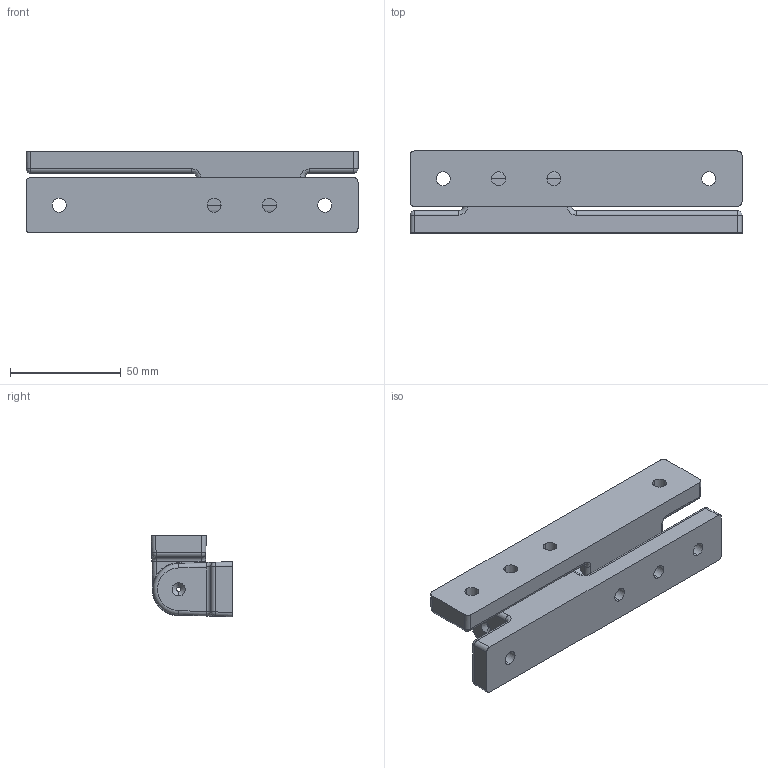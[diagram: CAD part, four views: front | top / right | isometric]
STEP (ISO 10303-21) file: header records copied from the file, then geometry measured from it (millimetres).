
FILE_DESCRIPTION (( 'STEP AP214' ), '1' );
FILE_NAME ('EFH-120-3.STEP', '2020-03-02T02:51:44', ( '' ), ( '' ), 'SwSTEP 2.0', 'SolidWorks 2019', '' );
FILE_SCHEMA (( 'AUTOMOTIVE_DESIGN' ));
Length unit declared in the file: millimetre
Products named in the file (3): Washer; EFH-120-3Hinge; EFH-120-3
Assembly tree (3 placements, depth 2):
  EFH-120-3
    EFH-120-3Hinge  x2
    Washer
Bounding box: 150 x 37 x 37 mm (x, y, z)
Volume: 125062.4 mm3; surface area: 30058.4 mm2
Topology: 3 solids, 3 shells, 142 faces, 324 edges, 180 vertices
Faces by surface type: cylinder 74, cone 20, plane 20, torus 12, sphere 8, bspline 8
Entity records: 2304 total; most frequent: CARTESIAN_POINT 542, DIRECTION 378, ORIENTED_EDGE 328, EDGE_CURVE 164, AXIS2_PLACEMENT_3D 154, VERTEX_POINT 94, EDGE_LOOP 86, CIRCLE 78
